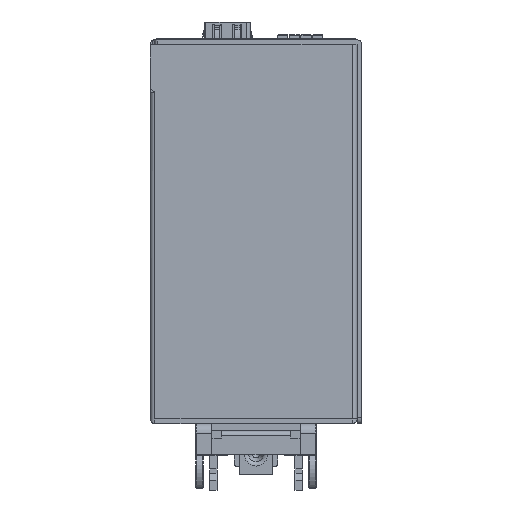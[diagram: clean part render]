
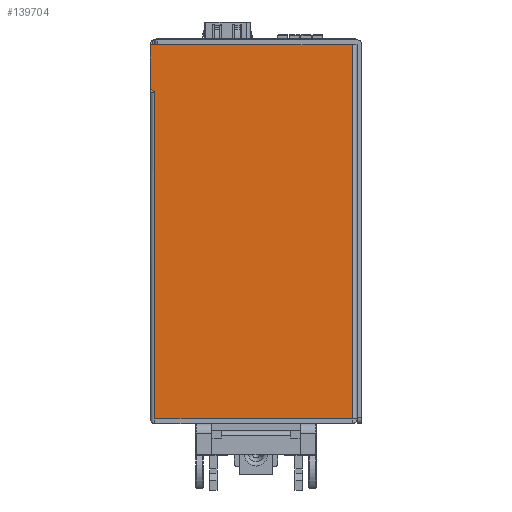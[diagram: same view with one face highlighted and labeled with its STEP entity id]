
A CAD part, front view. The second image highlights one B-rep face of the part: STEP entity #139704.
In plain terms, the highlighted planar face has unit normal (0, -1, 0).
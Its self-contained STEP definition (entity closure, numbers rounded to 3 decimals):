
#5530=PLANE('',#149373);
#13188=FACE_OUTER_BOUND('',#20475,.T.);
#20475=EDGE_LOOP('',(#122783,#122784,#122785,#122786,#122787,#122788,#122789,
#122790,#122791));
#24081=CIRCLE('',#149329,0.25);
#24084=CIRCLE('',#149338,1.);
#24087=CIRCLE('',#149343,1.);
#38073=LINE('',#234978,#53299);
#38666=LINE('',#237891,#53892);
#38711=LINE('',#238044,#53937);
#38712=LINE('',#238046,#53938);
#38713=LINE('',#238048,#53939);
#38714=LINE('',#238049,#53940);
#53299=VECTOR('',#181521,10.);
#53892=VECTOR('',#182536,10.);
#53937=VECTOR('',#182663,10.);
#53938=VECTOR('',#182666,10.);
#53939=VECTOR('',#182669,10.);
#53940=VECTOR('',#182670,10.);
#66000=VERTEX_POINT('',#234970);
#66003=VERTEX_POINT('',#234976);
#66558=VERTEX_POINT('',#237883);
#66560=VERTEX_POINT('',#237889);
#66570=VERTEX_POINT('',#237917);
#66572=VERTEX_POINT('',#237926);
#66602=VERTEX_POINT('',#238010);
#66606=VERTEX_POINT('',#238040);
#66607=VERTEX_POINT('',#238042);
#84644=EDGE_CURVE('',#66003,#66000,#38073,.T.);
#85457=EDGE_CURVE('',#66558,#66003,#24081,.T.);
#85460=EDGE_CURVE('',#66560,#66558,#38666,.T.);
#85473=EDGE_CURVE('',#66570,#66560,#24084,.T.);
#85478=EDGE_CURVE('',#66570,#66572,#24087,.F.);
#85530=EDGE_CURVE('',#66607,#66606,#38711,.T.);
#85531=EDGE_CURVE('',#66602,#66606,#38712,.T.);
#85532=EDGE_CURVE('',#66602,#66572,#38713,.T.);
#85533=EDGE_CURVE('',#66607,#66000,#38714,.T.);
#122783=ORIENTED_EDGE('',*,*,#85457,.F.);
#122784=ORIENTED_EDGE('',*,*,#85460,.F.);
#122785=ORIENTED_EDGE('',*,*,#85473,.F.);
#122786=ORIENTED_EDGE('',*,*,#85478,.T.);
#122787=ORIENTED_EDGE('',*,*,#85532,.F.);
#122788=ORIENTED_EDGE('',*,*,#85531,.T.);
#122789=ORIENTED_EDGE('',*,*,#85530,.F.);
#122790=ORIENTED_EDGE('',*,*,#85533,.T.);
#122791=ORIENTED_EDGE('',*,*,#84644,.F.);
#139704=ADVANCED_FACE('',(#13188),#5530,.T.);
#149329=AXIS2_PLACEMENT_3D('',#237885,#182530,#182531);
#149338=AXIS2_PLACEMENT_3D('',#237919,#182561,#182562);
#149343=AXIS2_PLACEMENT_3D('',#237928,#182573,#182574);
#149373=AXIS2_PLACEMENT_3D('',#238047,#182667,#182668);
#181521=DIRECTION('',(1.,0.,0.));
#182530=DIRECTION('center_axis',(0.,1.,0.));
#182531=DIRECTION('ref_axis',(-0.707,0.,
0.707));
#182536=DIRECTION('',(0.,0.,1.));
#182561=DIRECTION('center_axis',(0.,1.,0.));
#182562=DIRECTION('ref_axis',(1.,0.,0.));
#182573=DIRECTION('center_axis',(0.,-1.,0.));
#182574=DIRECTION('ref_axis',(0.866,0.,0.5));
#182663=DIRECTION('',(0.,0.,-1.));
#182666=DIRECTION('',(1.,0.,0.));
#182667=DIRECTION('center_axis',(0.,-1.,0.));
#182668=DIRECTION('ref_axis',(0.,0.,-1.));
#182669=DIRECTION('',(0.,0.,1.));
#182670=DIRECTION('',(-1.,0.,0.));
#234970=CARTESIAN_POINT('',(-57.205,-79.389,38.8));
#234976=CARTESIAN_POINT('',(-58.455,-79.389,38.8));
#234978=CARTESIAN_POINT('',(-57.705,-79.389,38.8));
#237883=CARTESIAN_POINT('',(-58.705,-79.389,38.55));
#237885=CARTESIAN_POINT('Origin',(-58.455,-79.389,38.55));
#237889=CARTESIAN_POINT('',(-58.705,-79.389,30.103));
#237891=CARTESIAN_POINT('',(-58.705,-79.389,29.3));
#237917=CARTESIAN_POINT('',(-58.138,-79.389,29.201));
#237919=CARTESIAN_POINT('Origin',(-57.705,-79.389,30.103));
#237926=CARTESIAN_POINT('',(-57.705,-79.389,28.8));
#237928=CARTESIAN_POINT('Origin',(-58.571,-79.389,28.3));
#238010=CARTESIAN_POINT('',(-57.705,-79.389,-38.99));
#238040=CARTESIAN_POINT('',(-16.705,-79.389,-38.99));
#238042=CARTESIAN_POINT('',(-16.705,-79.389,38.8));
#238044=CARTESIAN_POINT('',(-16.705,-79.389,14.353));
#238046=CARTESIAN_POINT('',(-57.705,-79.389,-38.99));
#238047=CARTESIAN_POINT('Origin',(-58.705,-79.389,28.8));
#238048=CARTESIAN_POINT('',(-57.705,-79.389,11.6));
#238049=CARTESIAN_POINT('',(-58.705,-79.389,38.8));
